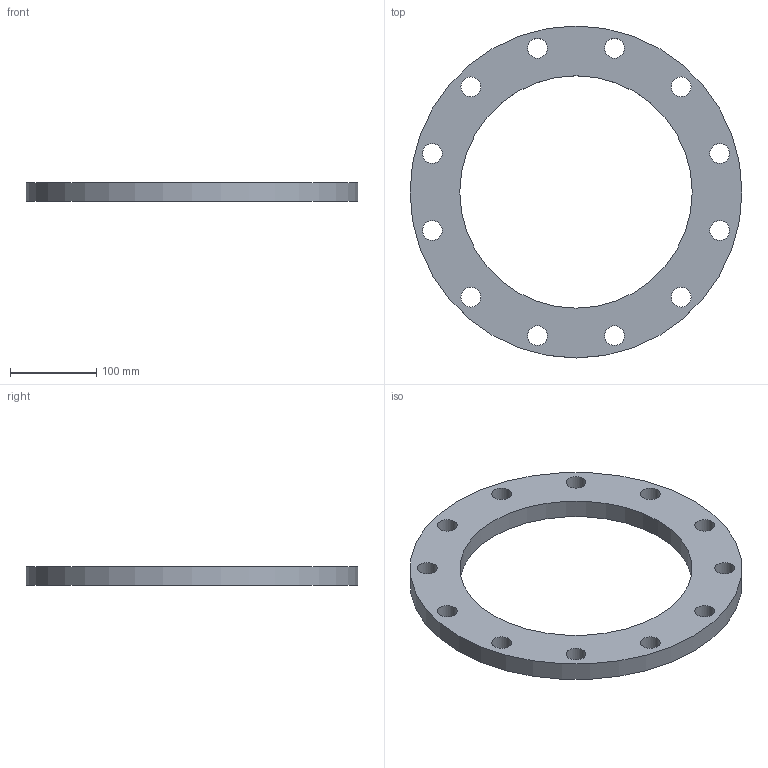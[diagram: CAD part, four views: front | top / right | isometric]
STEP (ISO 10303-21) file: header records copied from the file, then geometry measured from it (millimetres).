
FILE_DESCRIPTION(/* description */ (''),/* implementation_level */ '2;1');
FILE_NAME(/* name */ 'C:\Users\unitec\Documents\Inventor\HP\フランジ\5ksop\5ksop-250.stp',/* time_stamp */ '2016-03-16T15:22:27+09:00',/* author */ ('unitec'),/* organization */ (''),/* preprocessor_version */ 'ST-DEVELOPER v15.2',/* originating_system */ 'Autodesk Inventor 2014',/* authorisation */ '');
FILE_SCHEMA (('AUTOMOTIVE_DESIGN { 1 0 10303 214 3 1 1 }'));
Length unit declared in the file: millimetre
Products named in the file (1): 5ksop-250
Bounding box: 385 x 385 x 22 mm (x, y, z)
Volume: 1196497.9 mm3; surface area: 173084.1 mm2
Topology: 1 solids, 1 shells, 16 faces, 42 edges, 28 vertices
Faces by surface type: cylinder 14, plane 2
Full cylindrical faces by diameter (mm): 23 x12, 269.5 x1, 385 x1
Entity records: 517 total; most frequent: DIRECTION 90, CARTESIAN_POINT 73, EDGE_LOOP 56, ORIENTED_EDGE 56, AXIS2_PLACEMENT_3D 45, FACE_BOUND 42, CIRCLE 28, VERTEX_POINT 28
